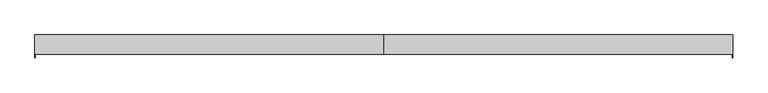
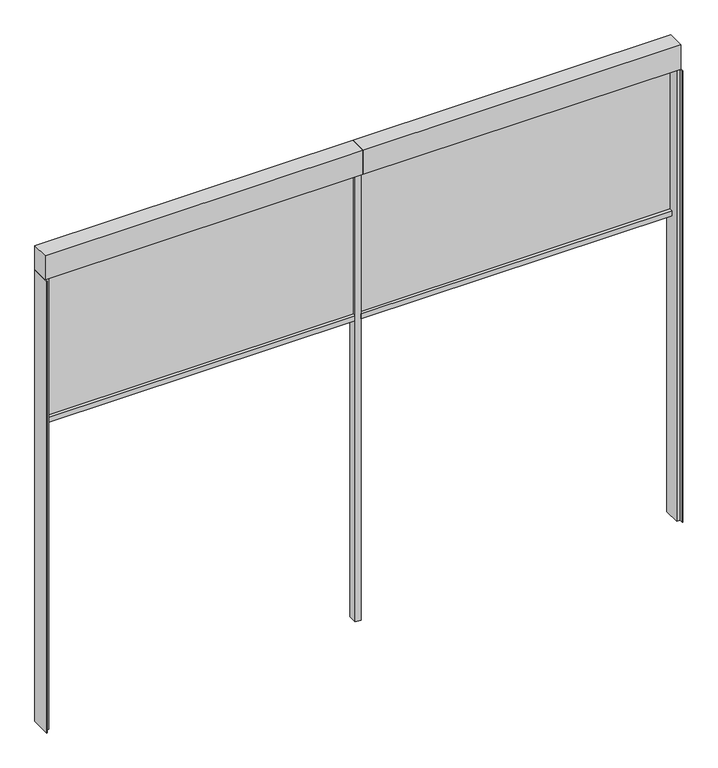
"""IFC4 building model written with IfcOpenShell, lengths in millimetres: proxy geometry, Renson_Fixscreen_Minimal_IM7B_With_CF : Recessed - Front of the window - Medium-CF - Access downwards - Fabric away from the window."""

from ifc_helpers import new_model, si_unit, frame, origin, place, context, project, spatial, polyline, outline, extrude, source, transform, mapped, element, save


def generic_models_f7b6e3af(model_context):
    return source(origin(), model_context, "Body", "SweptSolid", [
        extrude(outline(polyline([(3176.0, 85.0), (3201.0, 85.0), (3201.0, -45.0), (3198.0, -45.0), (3198.0, -20.0), (3176.0, -20.0), (3176.0, 85.0)])), frame((0.0, 0.0, 800.0), z_axis=(0.0, 0.0, 1.0), x_axis=(1.0, 0.0, 0.0)), (0.0, 0.0, 1.0), 3000.0),
        extrude(outline(polyline([(-774.0, 85.0), (-774.0, -20.0002196), (-796.0, -20.0002196), (-796.0, -45.0), (-799.0, -45.0), (-799.0, 85.0), (-774.0, 85.0)])), frame((0.0, 0.0, 800.0), z_axis=(0.0, 0.0, 1.0), x_axis=(1.0, 0.0, 0.0)), (0.0, 0.0, 1.0), 3000.0),
        extrude(outline(polyline([(-780.65, 49.0), (-780.65, 52.0), (1182.75, 52.0), (1182.75, 49.0), (-780.65, 49.0)])), frame((0.0, 0.0, 2812.5006852), z_axis=(0.0, 0.0, 1.0), x_axis=(1.0, 0.0, 0.0)), (0.0, 0.0, 1.0), 987.4993148),
        extrude(outline(polyline([(70.95, 2800.0), (30.45, 2800.0), (30.45, 2834.1156799), (47.85, 2835.0275753), (47.85, 2812.5006852), (53.55, 2812.5006852), (53.55, 2835.0275753), (70.95, 2834.1156799), (70.95, 2800.0)])), frame((-780.65, 0.0, 0.0), z_axis=(1.0, 0.0, 0.0), x_axis=(0.0, 1.0, 0.0)), (0.0, 0.0, 1.0), 1963.4),
        extrude(outline(polyline([(70.9955279, 2800.0), (30.4955279, 2800.0), (30.4955279, 2834.1156799), (47.8955279, 2835.0275753), (47.8955279, 2812.5006852), (53.5955279, 2812.5006852), (53.5955279, 2835.0275753), (70.9955279, 2834.1156799), (70.9955279, 2800.0)])), frame((1219.3, 0.0, 0.0), z_axis=(1.0, 0.0, 0.0), x_axis=(0.0, 1.0, 0.0)), (0.0, 0.0, 1.0), 1957.7),
        extrude(outline(polyline([(1219.3, 49.0), (1219.3, 52.0), (3177.0, 52.0), (3177.0, 49.0), (1219.3, 49.0)])), frame((0.0, 0.0, 2812.5006852), z_axis=(0.0, 0.0, 1.0), x_axis=(1.0, 0.0, 0.0)), (0.0, 0.0, 1.0), 987.4993148),
        extrude(outline(polyline([(1201.0, -25.0), (1201.0, 85.0), (3201.0, 85.0), (3201.0, -25.0), (1201.0, -25.0)])), frame((0.0, 0.0, 3800.0), z_axis=(0.0, 0.0, 1.0), x_axis=(1.0, 0.0, 0.0)), (0.0, 0.0, 1.0), 160.0),
        extrude(outline(polyline([(-799.0, -25.0), (-799.0, 85.0), (1201.0, 85.0), (1201.0, -25.0), (-799.0, -25.0)])), frame((0.0, 0.0, 3800.0), z_axis=(0.0, 0.0, 1.0), x_axis=(1.0, 0.0, 0.0)), (0.0, 0.0, 1.0), 160.0),
        extrude(outline(polyline([(1219.25, 85.0), (1219.25, 28.75), (1182.75, 28.75), (1182.75, 85.0), (1219.25, 85.0)])), frame((0.0, 0.0, 800.0), z_axis=(0.0, 0.0, 1.0), x_axis=(1.0, 0.0, 0.0)), (0.0, 0.0, 1.0), 3000.0),
    ])


if __name__ == "__main__":
    model = new_model("IFC4")
    model_context = context("Model", 3, world=origin())
    ifc_project = project(units=[si_unit("LENGTHUNIT", "METRE", prefix="MILLI")], contexts=[model_context])
    site = spatial("IfcSite", under=ifc_project)
    building = spatial("IfcBuilding", under=site)
    placement = place(None, origin())
    generic_models_shape = generic_models_f7b6e3af(model_context)
    element("IfcBuildingElementProxy", 1, Name="Renson_Fixscreen_Minimal_IM7B_With_CF : Recessed - Front of the window - Medium-CF - Access downwards - Fabric away from the window", ObjectType="Renson_Fixscreen_Minimal_IM7B_With_CF : Recessed - Front of the window - Medium-CF - Access downwards - Fabric away from the window", at=placement, inside=building, context=model_context, shape_type="MappedRepresentation", body=[
        mapped(generic_models_shape, transform((0.0, 0.0, 0.0), x_axis=(1.0, 0.0, 0.0), y_axis=(0.0, 1.0, 0.0), z_axis=(0.0, 0.0, 1.0))),
    ])
    save(model, "model.ifc")
